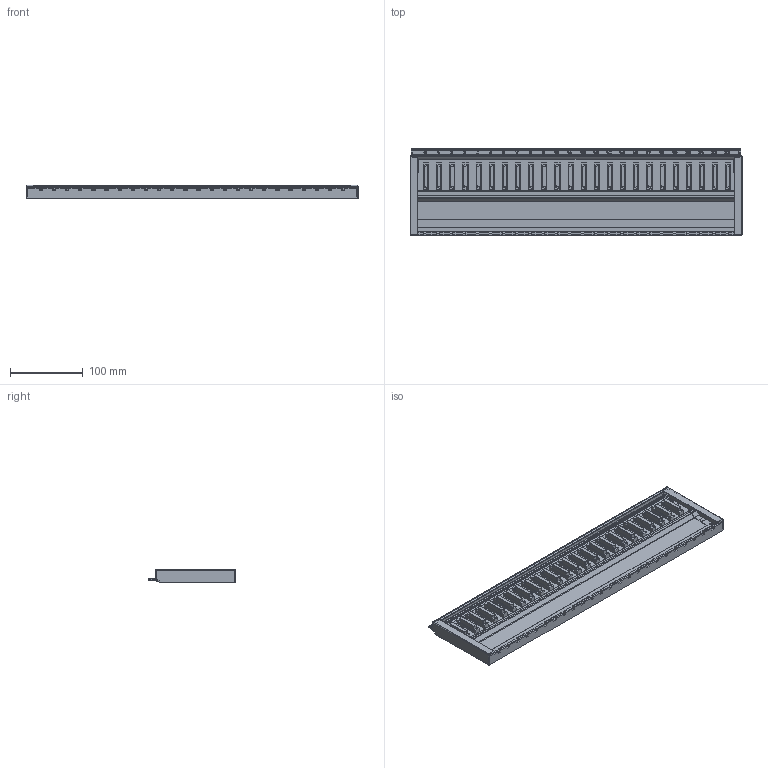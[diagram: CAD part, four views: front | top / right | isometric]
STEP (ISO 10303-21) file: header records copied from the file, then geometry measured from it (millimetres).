
FILE_DESCRIPTION (( 'STEP AP214' ), '1' );
FILE_NAME ('NX9003_20130611.STEP', '2013-06-11T17:34:34', ( 'ALTUS' ), ( '' ), 'SwSTEP 2.0', 'SolidWorks 2011', '' );
FILE_SCHEMA (( 'AUTOMOTIVE_DESIGN' ));
Length unit declared in the file: millimetre
Products named in the file (1): NX9003_20130611
Bounding box: 457.3 x 119.08 x 18.68 mm (x, y, z)
Volume: 246423.6 mm3; surface area: 180994.7 mm2
Topology: 1 solids, 1 shells, 1600 faces, 4985 edges, 3482 vertices
Faces by surface type: plane 818, cylinder 566, torus 98, bspline 66, cone 46, sphere 6
Entity records: 76230 total; most frequent: CARTESIAN_POINT 14786, ORIENTED_EDGE 9948, DIRECTION 8362, EDGE_CURVE 4974, VERTEX_POINT 3479, AXIS2_PLACEMENT_3D 2821, VECTOR 2720, LINE 2720
